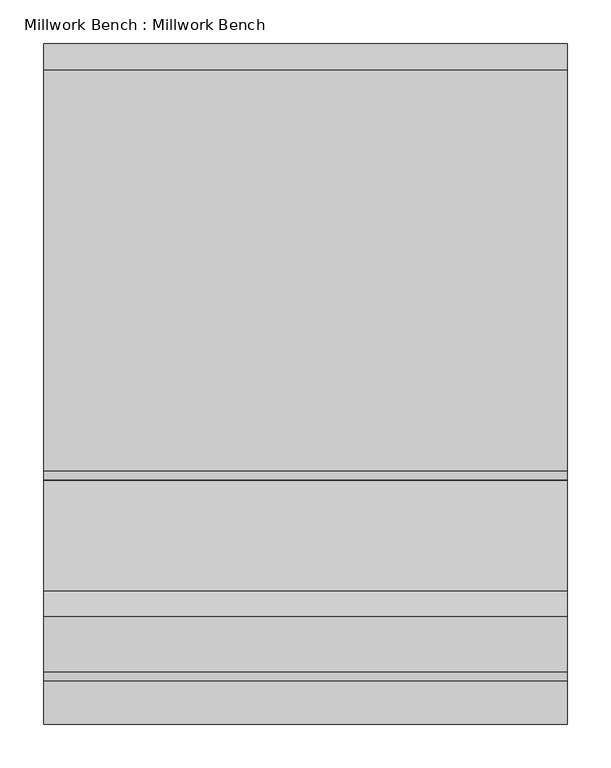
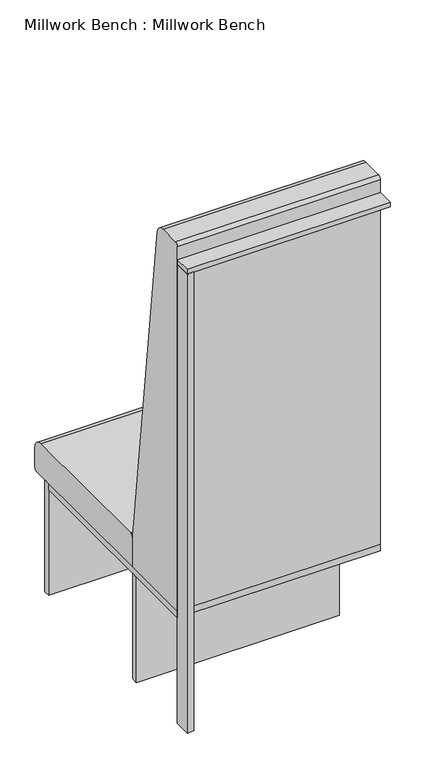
"""IFC4 building model written with IfcOpenShell, lengths in millimetres: plate geometry, Millwork Bench : Millwork Bench."""

import ifcopenshell
import ifcopenshell.guid

model = None  # the IFC model being written
_history = None  # IfcOwnerHistory: only IFC2X3 demands one
_inside = {}  # id of a spatial element -> (the spatial element, [elements in it])
_under = {}  # id of a project, library or spatial element -> (it, [spatial elements below it])
_declared = {}  # id of a project -> (the project, [libraries it declares])
_typed = {}  # id of a type object -> (the type object, [elements of that type])
_made_of = {}  # id of a material, layer set ... -> (it, [elements and type objects made of it])


def new_model(schema):
    """Start an empty IFC model of exactly this schema.

    Asked for "IFC4X3", IfcOpenShell would pick the latest addendum, in which some entities
    have other attributes; the version numbers below select the first issue.
    IFC2X3 requires an IfcOwnerHistory on every rooted entity: one is made here for all.
    """
    global model, _history
    if schema == "IFC4X3":
        model = ifcopenshell.file(schema_version=(4, 3, 0, 0))
    else:
        model = ifcopenshell.file(schema=schema)
    _inside.clear()
    _under.clear()
    _declared.clear()
    _typed.clear()
    _made_of.clear()
    _history = None
    if model.schema == "IFC2X3":
        org = make("IfcOrganization", Name="unknown")
        user = make(
            "IfcPersonAndOrganization",
            ThePerson=make("IfcPerson", FamilyName="unknown"),
            TheOrganization=org,
        )
        app = make(
            "IfcApplication",
            ApplicationDeveloper=org,
            Version="unknown",
            ApplicationFullName="unknown",
            ApplicationIdentifier="unknown",
        )
        _history = make(
            "IfcOwnerHistory",
            OwningUser=user,
            OwningApplication=app,
            ChangeAction="ADDED",
            CreationDate=0,
        )
    return model


def make(cls, **values):
    """One entity of the class cls with the attributes given. An attribute that is None is left unset."""
    return model.create_entity(
        cls, **{name: value for name, value in values.items() if value is not None}
    )


def rooted(cls, **values):
    """An entity with a GlobalId (a new one), such as an element, a storey or a relation."""
    return make(cls, GlobalId=ifcopenshell.guid.new(), OwnerHistory=_history, **values)


def si_unit(unit_type, name, prefix=None):
    """IfcSIUnit, for example si_unit("LENGTHUNIT", "METRE", prefix="MILLI")."""
    return make("IfcSIUnit", UnitType=unit_type, Prefix=prefix, Name=name)


def assignment(units):
    """IfcUnitAssignment: the units of a project."""
    return None if units is None else make("IfcUnitAssignment", Units=units)


def point(xyz):
    """IfcCartesianPoint."""
    return None if xyz is None else make("IfcCartesianPoint", Coordinates=xyz)


def direction(xyz):
    """IfcDirection."""
    return None if xyz is None else make("IfcDirection", DirectionRatios=xyz)


def frame(location, z_axis=None, x_axis=None):
    """IfcAxis2Placement3D, a coordinate frame: its origin and axes. An axis left out is left unset."""
    return make(
        "IfcAxis2Placement3D",
        Location=point(location),
        Axis=direction(z_axis),
        RefDirection=direction(x_axis),
    )


def frame_2d(location, x_axis=None):
    """IfcAxis2Placement2D, a coordinate frame in the plane: its origin and x axis."""
    return make(
        "IfcAxis2Placement2D", Location=point(location), RefDirection=direction(x_axis)
    )


def origin():
    """The frame at (0, 0, 0) with its axes left unset."""
    return frame((0.0, 0.0, 0.0))


def origin_with_axes():
    """The frame at (0, 0, 0) with the z axis (0, 0, 1) and the x axis (1, 0, 0) written out."""
    return frame((0.0, 0.0, 0.0), z_axis=(0.0, 0.0, 1.0), x_axis=(1.0, 0.0, 0.0))


def place(relative_to, where):
    """IfcLocalPlacement: puts the frame where relative to a parent placement (None: the world)."""
    return make(
        "IfcLocalPlacement", PlacementRelTo=relative_to, RelativePlacement=where
    )


def context(
    kind, dimensions, precision=None, world=None, true_north=None, identifier=None
):
    """IfcGeometricRepresentationContext, for example the 3D "Model" context."""
    return make(
        "IfcGeometricRepresentationContext",
        ContextIdentifier=identifier,
        ContextType=kind,
        CoordinateSpaceDimension=dimensions,
        Precision=precision,
        WorldCoordinateSystem=world,
        TrueNorth=true_north,
    )


def project(units=None, contexts=None):
    """IfcProject with its units and contexts."""
    return rooted(
        "IfcProject",
        Name="project",
        RepresentationContexts=contexts,
        UnitsInContext=assignment(units),
    )


def spatial(cls, under=None, at=None, **own):
    """A site, building, storey or space (cls), placed at a placement, below another one or the project."""
    s = rooted(cls, ObjectPlacement=at, **own)
    if under is not None:
        _under.setdefault(under.id(), (under, []))[1].append(s)
    return s


def polyline(points):
    """IfcPolyline through the points."""
    return make("IfcPolyline", Points=[point(p) for p in points])


def circle_curve(where, radius):
    """IfcCircle in the frame where."""
    return make("IfcCircle", Position=where, Radius=radius)


def trimmed(basis, trim1, trim2, sense, master):
    """IfcTrimmedCurve: the piece of a basis curve between two trims."""
    return make(
        "IfcTrimmedCurve",
        BasisCurve=basis,
        Trim1=trim1,
        Trim2=trim2,
        SenseAgreement=sense,
        MasterRepresentation=master,
    )


def segment(curve, same_sense, transition):
    """IfcCompositeCurveSegment."""
    return make(
        "IfcCompositeCurveSegment",
        Transition=transition,
        SameSense=same_sense,
        ParentCurve=curve,
    )


def composite_curve(segments, self_intersect=None):
    """IfcCompositeCurve: segments joined end to end."""
    return make("IfcCompositeCurve", Segments=segments, SelfIntersect=self_intersect)


def outline(outer, holes=None, kind="AREA"):
    """IfcArbitraryClosedProfileDef: a profile drawn as a closed curve; with holes, ...WithVoids."""
    if holes is None:
        return make("IfcArbitraryClosedProfileDef", ProfileType=kind, OuterCurve=outer)
    return make(
        "IfcArbitraryProfileDefWithVoids",
        ProfileType=kind,
        OuterCurve=outer,
        InnerCurves=holes,
    )


def extrude(swept, where, along, depth):
    """IfcExtrudedAreaSolid: the profile swept, set in the frame where, extruded along a direction by depth."""
    return make(
        "IfcExtrudedAreaSolid",
        SweptArea=swept,
        Position=where,
        ExtrudedDirection=direction(along),
        Depth=depth,
    )


def shape(context_of_items, identifier, shape_type, items):
    """IfcShapeRepresentation: the items that make up one representation, for example the "Body"."""
    return make(
        "IfcShapeRepresentation",
        ContextOfItems=context_of_items,
        RepresentationIdentifier=identifier,
        RepresentationType=shape_type,
        Items=items,
    )


def source(mapping_origin, context_of_items, identifier, shape_type, items):
    """IfcRepresentationMap: a shape defined once, which mapped items show again and again."""
    return make(
        "IfcRepresentationMap",
        MappingOrigin=mapping_origin,
        MappedRepresentation=shape(context_of_items, identifier, shape_type, items),
    )


def transform(
    local_origin,
    x_axis=None,
    y_axis=None,
    z_axis=None,
    scale=None,
    scale2=None,
    scale3=None,
    uniform=True,
):
    """IfcCartesianTransformationOperator3D, or its non-uniform kind. x_axis, y_axis, z_axis: its Axis1, 2, 3."""
    if uniform:
        return make(
            "IfcCartesianTransformationOperator3D",
            Axis1=direction(x_axis),
            Axis2=direction(y_axis),
            LocalOrigin=point(local_origin),
            Scale=scale,
            Axis3=direction(z_axis),
        )
    return make(
        "IfcCartesianTransformationOperator3DnonUniform",
        Axis1=direction(x_axis),
        Axis2=direction(y_axis),
        LocalOrigin=point(local_origin),
        Scale=scale,
        Axis3=direction(z_axis),
        Scale2=scale2,
        Scale3=scale3,
    )


def mapped(mapping_source, mapping_target):
    """IfcMappedItem: shows the shape of a source again, moved by a transform."""
    return make(
        "IfcMappedItem", MappingSource=mapping_source, MappingTarget=mapping_target
    )


def made_of(thing, what):
    """Note that an element or type object is made of a material, layer set ...; save() writes the relation."""
    if what is not None:
        _made_of.setdefault(what.id(), (what, []))[1].append(thing)
    return thing


def element(
    cls,
    number,
    at=None,
    inside=None,
    cuts=None,
    type_object=None,
    material=None,
    context=None,
    identifier="Body",
    shape_type=None,
    held_by="IfcProductDefinitionShape",
    body=None,
    shapes=None,
    **own,
):
    """One element of the class cls, such as IfcWall. Its Tag is "e" and its number.

    at: its placement. inside: the storey or other place that contains it. cuts: it is an
    opening in that element (IfcRelVoidsElement). A single representation is given by context,
    identifier, shape_type and body (its items); several are given by shapes. held_by: the class
    of the entity that holds the representations. save() writes the other relations.
    """
    e = rooted(cls, Tag="e%d" % number, ObjectPlacement=at, **own)
    if body is not None:
        shapes = [shape(context, identifier, shape_type, body)]
    if shapes is not None:
        e.Representation = make(held_by, Representations=shapes)
    if inside is not None:
        _inside.setdefault(inside.id(), (inside, []))[1].append(e)
    if cuts is not None:
        rooted(
            "IfcRelVoidsElement", RelatingBuildingElement=cuts, RelatedOpeningElement=e
        )
    if type_object is not None:
        _typed.setdefault(type_object.id(), (type_object, []))[1].append(e)
    return made_of(e, material)


def aggregate(whole, parts):
    """IfcRelAggregates: a whole, such as a stair, and the parts it consists of."""
    return rooted("IfcRelAggregates", RelatingObject=whole, RelatedObjects=parts)


def save(model, path):
    """Write the relations noted so far, then the file.

    IfcRelAggregates (storeys below a building ...), IfcRelContainedInSpatialStructure (elements
    in a storey), IfcRelDefinesByType, IfcRelAssociatesMaterial and IfcRelDeclares: one each for
    every whole, place, type object, material and project.
    """
    for whole, parts in _under.values():
        aggregate(whole, parts)
    for where, things in _inside.values():
        rooted(
            "IfcRelContainedInSpatialStructure",
            RelatedElements=things,
            RelatingStructure=where,
        )
    for kind, things in _typed.values():
        rooted("IfcRelDefinesByType", RelatedObjects=things, RelatingType=kind)
    for what, things in _made_of.values():
        rooted("IfcRelAssociatesMaterial", RelatedObjects=things, RelatingMaterial=what)
    for by, libraries in _declared.values():
        rooted("IfcRelDeclares", RelatingContext=by, RelatedDefinitions=libraries)
    model.write(path)


def millwork_bench_millwork_bench_4b785c8e(model_context):
    return source(origin(), model_context, "Body", "SweptSolid", [
        extrude(outline(polyline([(-280.0, 50.0), (-280.0, 0.0), (-300.0, 0.0), (-300.0, 50.0), (-280.0, 50.0)])), origin_with_axes(), (0.0, 0.0, 1.0), 1435.0),
        extrude(outline(composite_curve([segment(trimmed(circle_curve(frame_2d((60.0, 1490.0)), 10.0), [point((50.0, 1490.0))], [point((60.0, 1500.0))], False, "CARTESIAN"), True, "CONTINUOUS"), segment(polyline([(60.0, 1500.0), (123.4920869, 1500.0)]), True, "CONTINUOUS"), segment(trimmed(circle_curve(frame_2d((123.4920869, 1470.0)), 30.0), [point((123.4920869, 1500.0))], [point((153.0994406, 1474.8378308))], False, "CARTESIAN"), True, "CONTINUOUS"), segment(trimmed(circle_curve(frame_2d((-12920.1560931, -661.3273622)), 13246.6302123), [point((153.0994406, 1474.8378308))], [point((279.897996, 448.5302971))], False, "CARTESIAN"), True, "CONTINUOUS"), segment(trimmed(circle_curve(frame_2d((169.9898497, 444.3374224)), 109.9880941), [point((279.897996, 448.5302971))], [point((279.9779437, 444.3374224))], False, "CARTESIAN"), True, "CONTINUOUS"), segment(polyline([(279.9779437, 444.3374224), (279.9779437, 350.0), (50.0, 350.0), (50.0, 1490.0)]), True, "CONTINUOUS")], self_intersect=False)), frame((-300.0, 0.0, 0.0), z_axis=(1.0, 0.0, 0.0), x_axis=(0.0, 1.0, 0.0)), (0.0, 0.0, 1.0), 600.0),
        extrude(outline(composite_curve([segment(polyline([(290.0, 450.0), (750.0, 450.0)]), True, "CONTINUOUS"), segment(trimmed(circle_curve(frame_2d((750.0, 420.0)), 30.0), [point((750.0, 450.0))], [point((780.0, 420.0))], False, "CARTESIAN"), True, "CONTINUOUS"), segment(polyline([(780.0, 420.0), (780.0, 360.0)]), True, "CONTINUOUS"), segment(trimmed(circle_curve(frame_2d((770.0, 360.0)), 10.0), [point((780.0, 360.0))], [point((770.0, 350.0))], False, "CARTESIAN"), True, "CONTINUOUS"), segment(polyline([(770.0, 350.0), (280.0, 350.0), (280.0, 440.0)]), True, "CONTINUOUS"), segment(trimmed(circle_curve(frame_2d((290.0, 440.0)), 10.0), [point((280.0, 440.0))], [point((290.0, 450.0))], False, "CARTESIAN"), True, "CONTINUOUS")], self_intersect=False)), frame((-300.0, 0.0, 0.0), z_axis=(1.0, 0.0, 0.0), x_axis=(0.0, 1.0, 0.0)), (0.0, 0.0, 1.0), 600.0),
        extrude(outline(polyline([(300.0, 50.0), (300.0, 0.0), (-300.0, 0.0), (-300.0, 50.0), (300.0, 50.0)])), frame((0.0, 0.0, 1435.0), z_axis=(0.0, 0.0, 1.0), x_axis=(1.0, 0.0, 0.0)), (0.0, 0.0, 1.0), 15.0),
        extrude(outline(polyline([(300.0, 280.0), (300.0, 260.0), (-300.0, 260.0), (-300.0, 280.0), (300.0, 280.0)])), origin_with_axes(), (0.0, 0.0, 1.0), 330.0),
        extrude(outline(polyline([(300.0, 710.0), (300.0, 50.0), (-300.0, 50.0), (-300.0, 710.0), (300.0, 710.0)])), frame((0.0, 0.0, 330.0), z_axis=(0.0, 0.0, 1.0), x_axis=(1.0, 0.0, 0.0)), (0.0, 0.0, 1.0), 20.0),
        extrude(outline(polyline([(300.0, 730.0), (300.0, 710.0), (-300.0, 710.0), (-300.0, 730.0), (300.0, 730.0)])), origin_with_axes(), (0.0, 0.0, 1.0), 350.0),
    ])


if __name__ == "__main__":
    model = new_model("IFC4")
    model_context = context("Model", 3, world=origin())
    ifc_project = project(units=[si_unit("LENGTHUNIT", "METRE", prefix="MILLI")], contexts=[model_context])
    site = spatial("IfcSite", under=ifc_project)
    building = spatial("IfcBuilding", under=site)
    placement = place(None, origin())
    millwork_bench_millwork_bench_shape = millwork_bench_millwork_bench_4b785c8e(model_context)
    element("IfcPlate", 1, ObjectType="Millwork Bench : Millwork Bench", at=placement, inside=building, context=model_context, shape_type="MappedRepresentation", body=[
        mapped(millwork_bench_millwork_bench_shape, transform((0.0, 0.0, 0.0), x_axis=(1.0, 0.0, 0.0), y_axis=(0.0, 1.0, 0.0), z_axis=(0.0, 0.0, 1.0))),
    ])
    save(model, "model.ifc")
